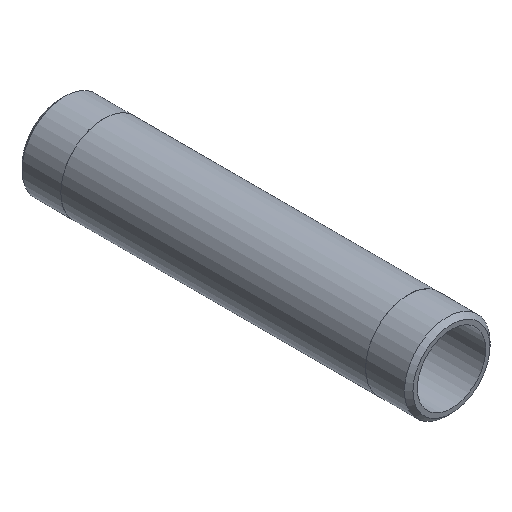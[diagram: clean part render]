
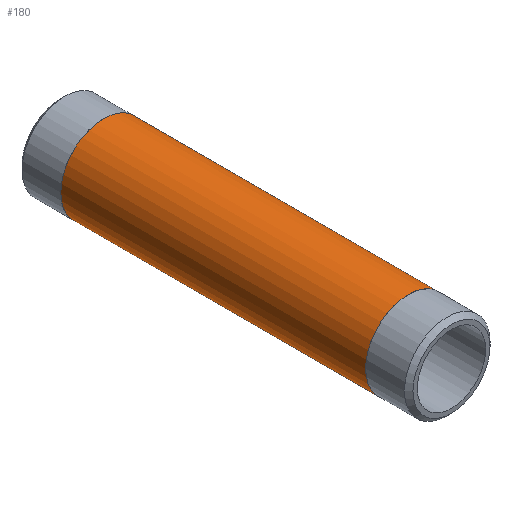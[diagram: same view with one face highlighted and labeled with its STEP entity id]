
A CAD part, isometric view. The second image highlights one B-rep face of the part: STEP entity #180.
In plain terms, the highlighted cylindrical face has radius 16.701 mm (diameter 33.401 mm), a full revolution.
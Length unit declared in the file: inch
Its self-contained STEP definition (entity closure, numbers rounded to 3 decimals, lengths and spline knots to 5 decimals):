
#25=CYLINDRICAL_SURFACE('',#220,0.6575);
#34=FACE_OUTER_BOUND('',#47,.T.);
#47=EDGE_LOOP('',(#155,#156,#157,#158,#159,#160));
#55=LINE('',#338,#61);
#61=VECTOR('',#283,0.6575);
#77=CIRCLE('',#218,0.6575);
#78=CIRCLE('',#219,0.6575);
#79=CIRCLE('',#221,0.6575);
#80=CIRCLE('',#222,0.6575);
#95=VERTEX_POINT('',#329);
#96=VERTEX_POINT('',#330);
#97=VERTEX_POINT('',#334);
#98=VERTEX_POINT('',#335);
#117=EDGE_CURVE('',#95,#96,#77,.T.);
#118=EDGE_CURVE('',#96,#95,#78,.T.);
#119=EDGE_CURVE('',#97,#98,#79,.T.);
#120=EDGE_CURVE('',#98,#97,#80,.T.);
#121=EDGE_CURVE('',#98,#96,#55,.T.);
#155=ORIENTED_EDGE('',*,*,#119,.F.);
#156=ORIENTED_EDGE('',*,*,#120,.F.);
#157=ORIENTED_EDGE('',*,*,#121,.T.);
#158=ORIENTED_EDGE('',*,*,#118,.T.);
#159=ORIENTED_EDGE('',*,*,#117,.T.);
#160=ORIENTED_EDGE('',*,*,#121,.F.);
#180=ADVANCED_FACE('',(#34),#25,.T.);
#218=AXIS2_PLACEMENT_3D('',#331,#273,#274);
#219=AXIS2_PLACEMENT_3D('',#332,#275,#276);
#220=AXIS2_PLACEMENT_3D('',#333,#277,#278);
#221=AXIS2_PLACEMENT_3D('',#336,#279,#280);
#222=AXIS2_PLACEMENT_3D('',#337,#281,#282);
#273=DIRECTION('center_axis',(0.,-1.,0.));
#274=DIRECTION('ref_axis',(1.,0.,0.));
#275=DIRECTION('center_axis',(0.,-1.,0.));
#276=DIRECTION('ref_axis',(1.,0.,0.));
#277=DIRECTION('center_axis',(0.,-1.,0.));
#278=DIRECTION('ref_axis',(0.,0.,-1.));
#279=DIRECTION('center_axis',(0.,-1.,0.));
#280=DIRECTION('ref_axis',(1.,0.,0.));
#281=DIRECTION('center_axis',(0.,-1.,0.));
#282=DIRECTION('ref_axis',(1.,0.,0.));
#283=DIRECTION('',(0.,1.,0.));
#329=CARTESIAN_POINT('',(0.,5.339,-0.6575));
#330=CARTESIAN_POINT('',(0.,5.339,0.6575));
#331=CARTESIAN_POINT('Origin',(0.,5.339,0.));
#332=CARTESIAN_POINT('Origin',(0.,5.339,0.));
#333=CARTESIAN_POINT('Origin',(0.,3.,0.));
#334=CARTESIAN_POINT('',(0.,0.661,-0.6575));
#335=CARTESIAN_POINT('',(0.,0.661,0.6575));
#336=CARTESIAN_POINT('Origin',(0.,0.661,0.));
#337=CARTESIAN_POINT('Origin',(0.,0.661,0.));
#338=CARTESIAN_POINT('',(0.,3.,0.6575));
